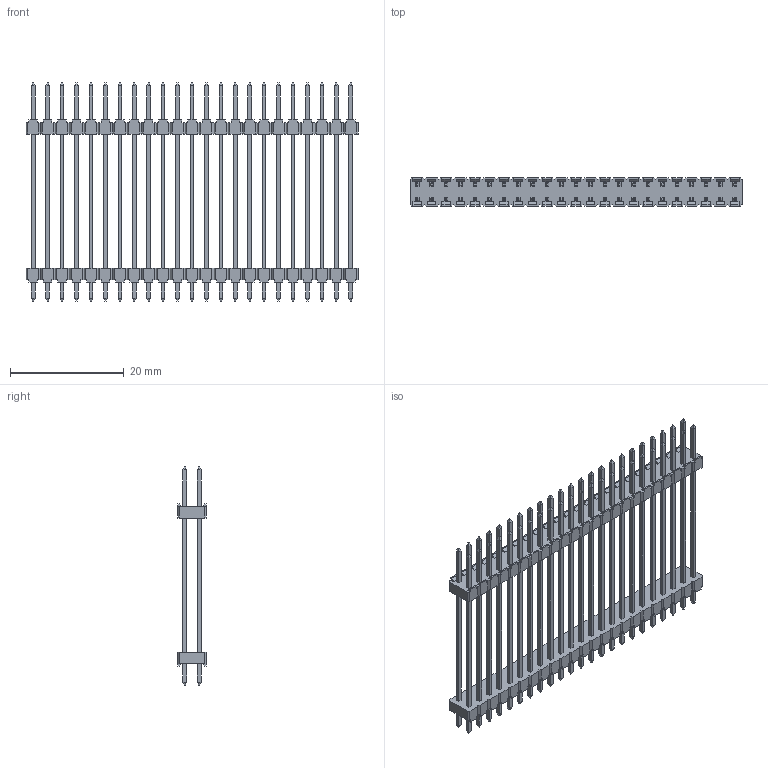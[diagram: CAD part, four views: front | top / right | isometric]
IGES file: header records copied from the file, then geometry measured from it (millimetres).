
Global section: file name: N:\GOLF_VI_2_54mm_UGII\9614XX-X04XX04-XX (TS-2185)\961446-8041504-XX.igs; native system: NX V3.0; preprocessor: UGS NX IGES V4.0; date: 20070618.113749; units: millimetre
Bounding box: 58.42 x 5 x 38.4 mm (x, y, z)
Surface area: 5761.1 mm2 (no closed solid volume)
Topology: 0 solids, 0 shells, 1760 faces, 9249 edges, 9249 vertices
Faces by surface type: bspline 1760
